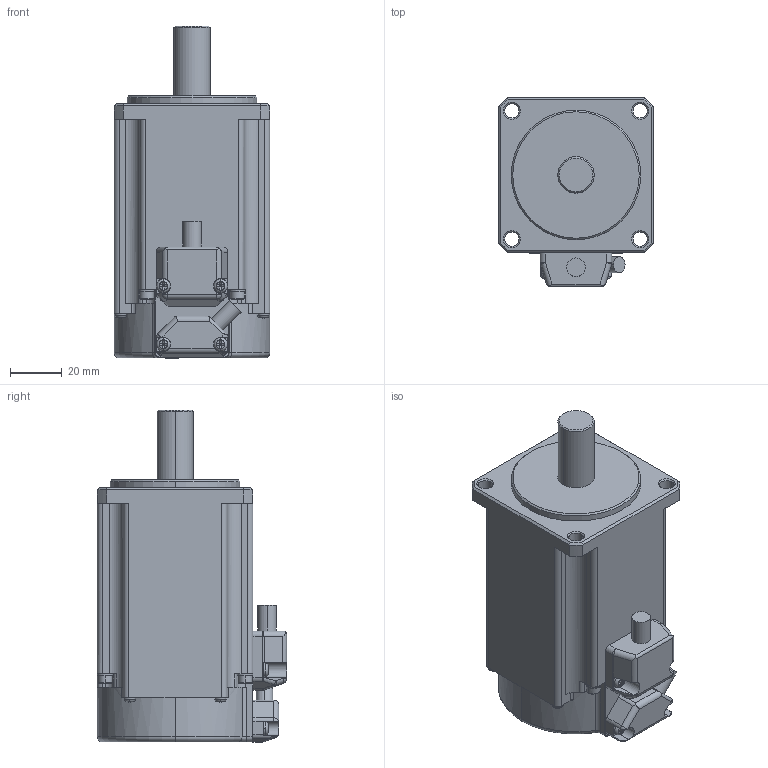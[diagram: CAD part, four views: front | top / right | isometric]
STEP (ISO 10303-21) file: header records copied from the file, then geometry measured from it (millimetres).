
FILE_DESCRIPTION (( 'STEP AP203' ), '1' );
FILE_NAME ('TS4609-N1000.STEP', '2010-08-04T14:32:04', ( 'render' ), ( '' ), 'SwSTEP 2.0', 'SolidWorks 2009', '' );
FILE_SCHEMA (( 'CONFIG_CONTROL_DESIGN' ));
Length unit declared in the file: millimetre
Products named in the file (1): TS4609-N1000
Bounding box: 60 x 73 x 128.1 mm (x, y, z)
Volume: 330947.6 mm3; surface area: 33122.2 mm2
Topology: 1 solids, 1 shells, 647 faces, 1483 edges, 846 vertices
Faces by surface type: plane 287, cylinder 215, cone 75, sphere 28, torus 22, bspline 20
Entity records: 18793 total; most frequent: CARTESIAN_POINT 4202, DIRECTION 3274, ORIENTED_EDGE 2948, EDGE_CURVE 1474, AXIS2_PLACEMENT_3D 1329, VERTEX_POINT 846, CIRCLE 701, EDGE_LOOP 672
